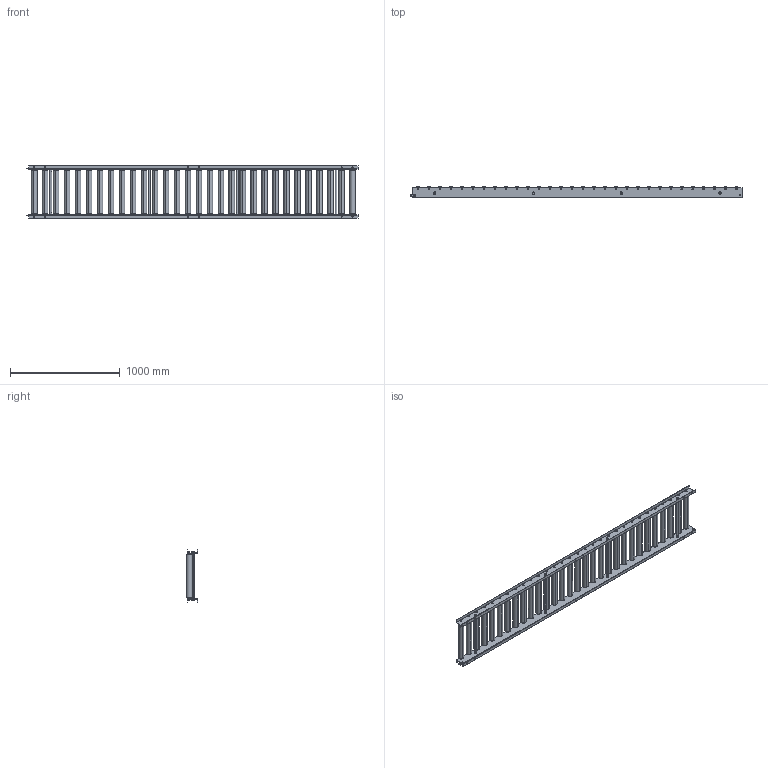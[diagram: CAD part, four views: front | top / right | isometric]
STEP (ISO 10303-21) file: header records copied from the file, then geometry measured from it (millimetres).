
FILE_DESCRIPTION (( 'STEP AP203' ), '1' );
FILE_NAME ('RZ-5015P.step', '2024-02-20T11:19:29', ( '' ), ( '' ), 'SwSTEP 2.0', 'SolidWorks 2023', '' );
FILE_SCHEMA (( 'CONFIG_CONTROL_DESIGN' ));
Length unit declared in the file: millimetre
Products named in the file (1): RZ-5015P
Bounding box: 3025 x 100.4 x 475 mm (x, y, z)
Volume: 26048648.4 mm3; surface area: 5317824.4 mm2
Topology: 84 solids, 84 shells, 1280 faces, 2932 edges, 1888 vertices
Faces by surface type: cylinder 622, plane 490, torus 120, cone 48
Entity records: 37571 total; most frequent: DIRECTION 7018, CARTESIAN_POINT 6773, ORIENTED_EDGE 5864, AXIS2_PLACEMENT_3D 2933, EDGE_CURVE 2932, VERTEX_POINT 1888, CIRCLE 1652, EDGE_LOOP 1652
